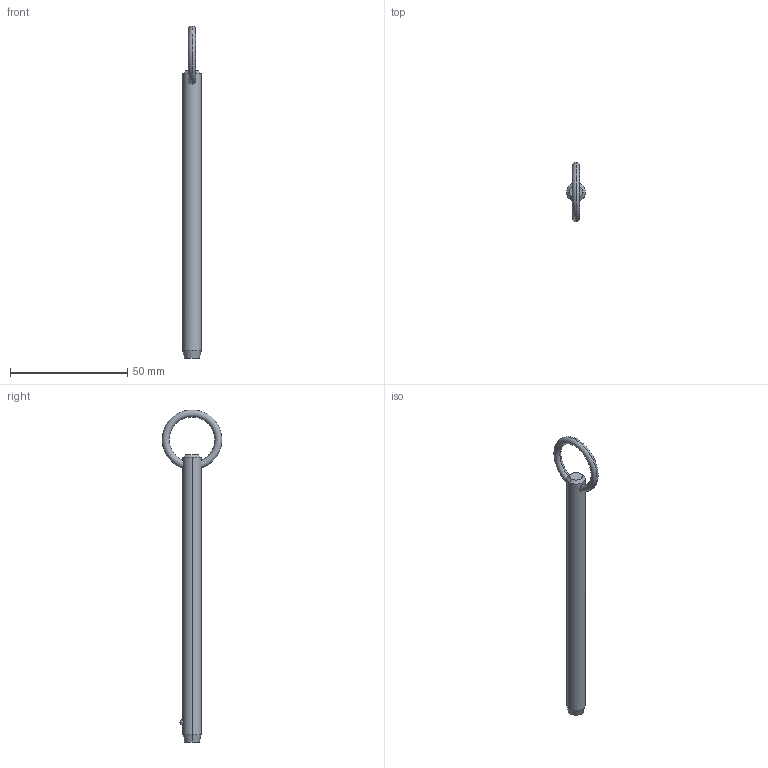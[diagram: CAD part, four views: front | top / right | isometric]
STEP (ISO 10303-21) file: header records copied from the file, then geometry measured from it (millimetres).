
FILE_DESCRIPTION (( 'STEP AP203' ), '1' );
FILE_NAME ('P1250.031-420.step', '2019-07-29T19:55:48', ( '' ), ( '' ), 'SwSTEP 2.0', 'SolidWorks 2017', '' );
FILE_SCHEMA (( 'CONFIG_CONTROL_DESIGN' ));
Length unit declared in the file: millimetre
Products named in the file (1): P1250.031-420
Bounding box: 7.93 x 25.36 x 141.61 mm (x, y, z)
Volume: 6454.2 mm3; surface area: 3688.9 mm2
Topology: 1 solids, 1 shells, 12 faces, 28 edges, 17 vertices
Faces by surface type: cone 4, torus 2, sphere 2, cylinder 2, plane 2
Entity records: 509 total; most frequent: CARTESIAN_POINT 176, DIRECTION 56, ORIENTED_EDGE 48, AXIS2_PLACEMENT_3D 25, EDGE_CURVE 24, VERTEX_POINT 15, EDGE_LOOP 15, FACE_OUTER_BOUND 12
